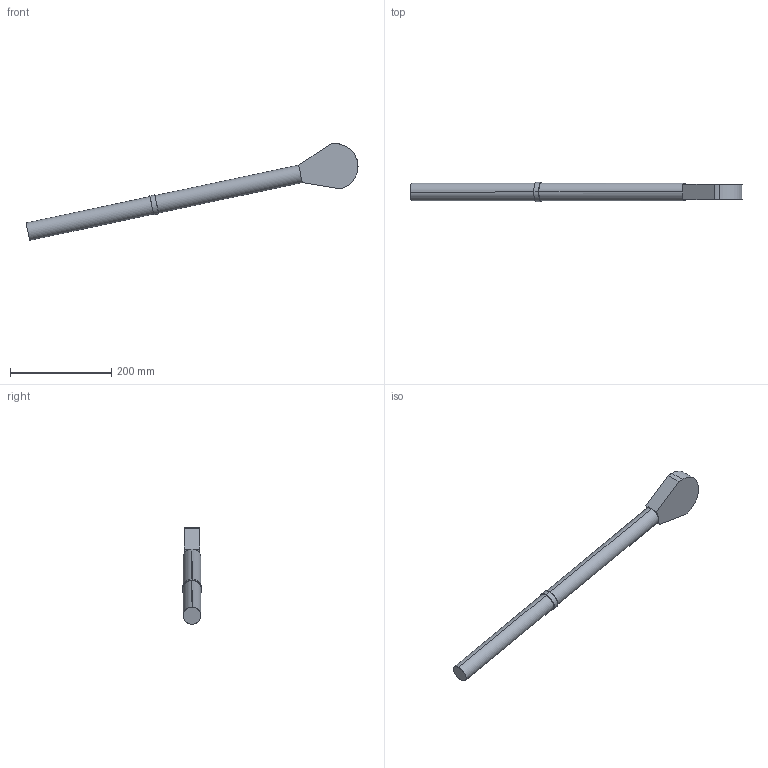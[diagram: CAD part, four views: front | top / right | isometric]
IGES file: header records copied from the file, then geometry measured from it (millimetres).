
Start section: SolidWorks IGES file using analytic representation for surfaces
Global section: file name: C:\Users\sefaane2\Downloads\Sparad modell IRB4400 10\Final SolidWorks CADSIM models and .txt file\Macro\Macro_IRC5_IGES_j\IRB4400_L10-253_IRC5_rev03_BAL-B_CAD.IGS; native system: SolidWorks 2014; preprocessor: SolidWorks 2014; author: SEFAANE2; date: 161103.132502; units: millimetre
Bounding box: 655.13 x 38 x 190.79 mm (x, y, z)
Surface area: 87207.9 mm2 (no closed solid volume)
Topology: 0 solids, 0 shells, 24 faces, 638 edges, 638 vertices
Faces by surface type: bspline 14, revolution 10
